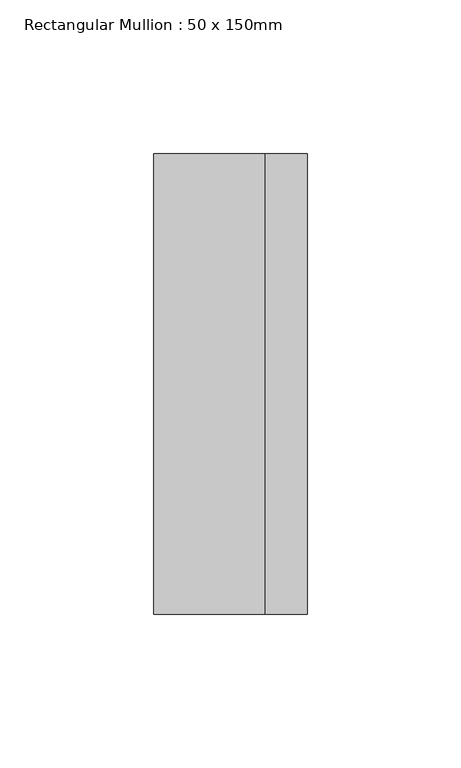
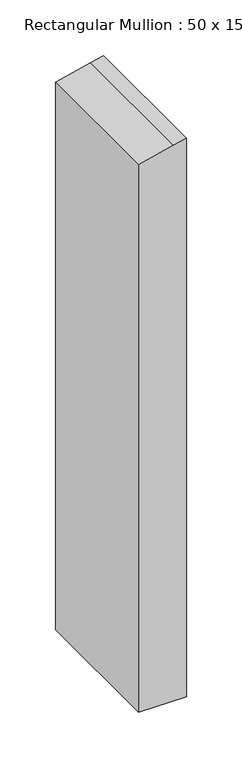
"""IFC4 building model written with IfcOpenShell, lengths in millimetres: member geometry, Rectangular Mullion : 50 x 150mm."""

from ifc_helpers import new_model, si_unit, frame, origin, place, context, project, spatial, polyline, outline, extrude, source, transform, mapped, element, save


def rectangular_mullion_50_x_150mm_54734008(model_context):
    return source(origin(), model_context, "Body", "SweptSolid", [
        extrude(outline(polyline([(-45.4880193, 25.0), (-48.6748048, 11.4351816), (-57.2345292, -25.0), (-659.5255255, -25.0), (-659.5255255, 25.0), (-45.4880193, 25.0)])), frame((0.0, -75.0, 0.0), z_axis=(0.0, 1.0, 0.0), x_axis=(0.0, 0.0, 1.0)), (0.0, 0.0, 1.0), 150.0),
    ])


if __name__ == "__main__":
    model = new_model("IFC4")
    model_context = context("Model", 3, world=origin())
    ifc_project = project(units=[si_unit("LENGTHUNIT", "METRE", prefix="MILLI")], contexts=[model_context])
    site = spatial("IfcSite", under=ifc_project)
    building = spatial("IfcBuilding", under=site)
    placement = place(None, origin())
    rectangular_mullion_50_x_150mm_shape = rectangular_mullion_50_x_150mm_54734008(model_context)
    element("IfcMember", 1, ObjectType="Rectangular Mullion : 50 x 150mm", at=placement, inside=building, context=model_context, shape_type="MappedRepresentation", body=[
        mapped(rectangular_mullion_50_x_150mm_shape, transform((0.0, 0.0, 0.0), x_axis=(1.0, 0.0, 0.0), y_axis=(0.0, 1.0, 0.0), z_axis=(0.0, 0.0, 1.0))),
    ])
    save(model, "model.ifc")
